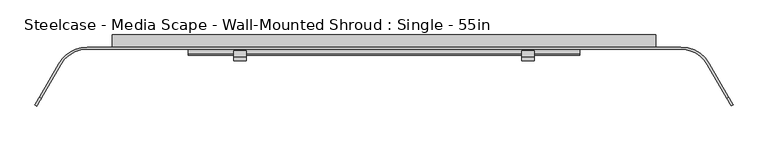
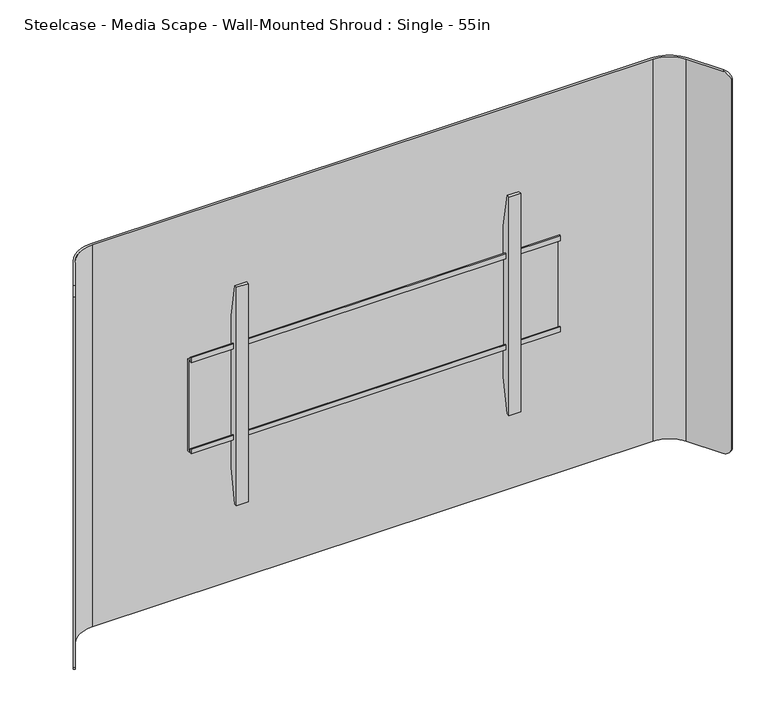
"""IFC4 building model written with IfcOpenShell, lengths in millimetres: furniture geometry, Steelcase - Media Scape - Wall-Mounted Shroud : Single - 55in."""

import ifcopenshell
import ifcopenshell.guid

model = None  # the IFC model being written
_history = None  # IfcOwnerHistory: only IFC2X3 demands one
_inside = {}  # id of a spatial element -> (the spatial element, [elements in it])
_under = {}  # id of a project, library or spatial element -> (it, [spatial elements below it])
_declared = {}  # id of a project -> (the project, [libraries it declares])
_typed = {}  # id of a type object -> (the type object, [elements of that type])
_made_of = {}  # id of a material, layer set ... -> (it, [elements and type objects made of it])


def new_model(schema):
    """Start an empty IFC model of exactly this schema.

    Asked for "IFC4X3", IfcOpenShell would pick the latest addendum, in which some entities
    have other attributes; the version numbers below select the first issue.
    IFC2X3 requires an IfcOwnerHistory on every rooted entity: one is made here for all.
    """
    global model, _history
    if schema == "IFC4X3":
        model = ifcopenshell.file(schema_version=(4, 3, 0, 0))
    else:
        model = ifcopenshell.file(schema=schema)
    _inside.clear()
    _under.clear()
    _declared.clear()
    _typed.clear()
    _made_of.clear()
    _history = None
    if model.schema == "IFC2X3":
        org = make("IfcOrganization", Name="unknown")
        user = make(
            "IfcPersonAndOrganization",
            ThePerson=make("IfcPerson", FamilyName="unknown"),
            TheOrganization=org,
        )
        app = make(
            "IfcApplication",
            ApplicationDeveloper=org,
            Version="unknown",
            ApplicationFullName="unknown",
            ApplicationIdentifier="unknown",
        )
        _history = make(
            "IfcOwnerHistory",
            OwningUser=user,
            OwningApplication=app,
            ChangeAction="ADDED",
            CreationDate=0,
        )
    return model


def make(cls, **values):
    """One entity of the class cls with the attributes given. An attribute that is None is left unset."""
    return model.create_entity(
        cls, **{name: value for name, value in values.items() if value is not None}
    )


def rooted(cls, **values):
    """An entity with a GlobalId (a new one), such as an element, a storey or a relation."""
    return make(cls, GlobalId=ifcopenshell.guid.new(), OwnerHistory=_history, **values)


def si_unit(unit_type, name, prefix=None):
    """IfcSIUnit, for example si_unit("LENGTHUNIT", "METRE", prefix="MILLI")."""
    return make("IfcSIUnit", UnitType=unit_type, Prefix=prefix, Name=name)


def assignment(units):
    """IfcUnitAssignment: the units of a project."""
    return None if units is None else make("IfcUnitAssignment", Units=units)


def point(xyz):
    """IfcCartesianPoint."""
    return None if xyz is None else make("IfcCartesianPoint", Coordinates=xyz)


def direction(xyz):
    """IfcDirection."""
    return None if xyz is None else make("IfcDirection", DirectionRatios=xyz)


def frame(location, z_axis=None, x_axis=None):
    """IfcAxis2Placement3D, a coordinate frame: its origin and axes. An axis left out is left unset."""
    return make(
        "IfcAxis2Placement3D",
        Location=point(location),
        Axis=direction(z_axis),
        RefDirection=direction(x_axis),
    )


def origin():
    """The frame at (0, 0, 0) with its axes left unset."""
    return frame((0.0, 0.0, 0.0))


def place(relative_to, where):
    """IfcLocalPlacement: puts the frame where relative to a parent placement (None: the world)."""
    return make(
        "IfcLocalPlacement", PlacementRelTo=relative_to, RelativePlacement=where
    )


def context(
    kind, dimensions, precision=None, world=None, true_north=None, identifier=None
):
    """IfcGeometricRepresentationContext, for example the 3D "Model" context."""
    return make(
        "IfcGeometricRepresentationContext",
        ContextIdentifier=identifier,
        ContextType=kind,
        CoordinateSpaceDimension=dimensions,
        Precision=precision,
        WorldCoordinateSystem=world,
        TrueNorth=true_north,
    )


def project(units=None, contexts=None):
    """IfcProject with its units and contexts."""
    return rooted(
        "IfcProject",
        Name="project",
        RepresentationContexts=contexts,
        UnitsInContext=assignment(units),
    )


def spatial(cls, under=None, at=None, **own):
    """A site, building, storey or space (cls), placed at a placement, below another one or the project."""
    s = rooted(cls, ObjectPlacement=at, **own)
    if under is not None:
        _under.setdefault(under.id(), (under, []))[1].append(s)
    return s


def polyline(points):
    """IfcPolyline through the points."""
    return make("IfcPolyline", Points=[point(p) for p in points])


def circle_curve(where, radius):
    """IfcCircle in the frame where."""
    return make("IfcCircle", Position=where, Radius=radius)


def outline(outer, holes=None, kind="AREA"):
    """IfcArbitraryClosedProfileDef: a profile drawn as a closed curve; with holes, ...WithVoids."""
    if holes is None:
        return make("IfcArbitraryClosedProfileDef", ProfileType=kind, OuterCurve=outer)
    return make(
        "IfcArbitraryProfileDefWithVoids",
        ProfileType=kind,
        OuterCurve=outer,
        InnerCurves=holes,
    )


def extrude(swept, where, along, depth):
    """IfcExtrudedAreaSolid: the profile swept, set in the frame where, extruded along a direction by depth."""
    return make(
        "IfcExtrudedAreaSolid",
        SweptArea=swept,
        Position=where,
        ExtrudedDirection=direction(along),
        Depth=depth,
    )


def shape(context_of_items, identifier, shape_type, items):
    """IfcShapeRepresentation: the items that make up one representation, for example the "Body"."""
    return make(
        "IfcShapeRepresentation",
        ContextOfItems=context_of_items,
        RepresentationIdentifier=identifier,
        RepresentationType=shape_type,
        Items=items,
    )


def source(mapping_origin, context_of_items, identifier, shape_type, items):
    """IfcRepresentationMap: a shape defined once, which mapped items show again and again."""
    return make(
        "IfcRepresentationMap",
        MappingOrigin=mapping_origin,
        MappedRepresentation=shape(context_of_items, identifier, shape_type, items),
    )


def transform(
    local_origin,
    x_axis=None,
    y_axis=None,
    z_axis=None,
    scale=None,
    scale2=None,
    scale3=None,
    uniform=True,
):
    """IfcCartesianTransformationOperator3D, or its non-uniform kind. x_axis, y_axis, z_axis: its Axis1, 2, 3."""
    if uniform:
        return make(
            "IfcCartesianTransformationOperator3D",
            Axis1=direction(x_axis),
            Axis2=direction(y_axis),
            LocalOrigin=point(local_origin),
            Scale=scale,
            Axis3=direction(z_axis),
        )
    return make(
        "IfcCartesianTransformationOperator3DnonUniform",
        Axis1=direction(x_axis),
        Axis2=direction(y_axis),
        LocalOrigin=point(local_origin),
        Scale=scale,
        Axis3=direction(z_axis),
        Scale2=scale2,
        Scale3=scale3,
    )


def mapped(mapping_source, mapping_target):
    """IfcMappedItem: shows the shape of a source again, moved by a transform."""
    return make(
        "IfcMappedItem", MappingSource=mapping_source, MappingTarget=mapping_target
    )


def made_of(thing, what):
    """Note that an element or type object is made of a material, layer set ...; save() writes the relation."""
    if what is not None:
        _made_of.setdefault(what.id(), (what, []))[1].append(thing)
    return thing


def element(
    cls,
    number,
    at=None,
    inside=None,
    cuts=None,
    type_object=None,
    material=None,
    context=None,
    identifier="Body",
    shape_type=None,
    held_by="IfcProductDefinitionShape",
    body=None,
    shapes=None,
    **own,
):
    """One element of the class cls, such as IfcWall. Its Tag is "e" and its number.

    at: its placement. inside: the storey or other place that contains it. cuts: it is an
    opening in that element (IfcRelVoidsElement). A single representation is given by context,
    identifier, shape_type and body (its items); several are given by shapes. held_by: the class
    of the entity that holds the representations. save() writes the other relations.
    """
    e = rooted(cls, Tag="e%d" % number, ObjectPlacement=at, **own)
    if body is not None:
        shapes = [shape(context, identifier, shape_type, body)]
    if shapes is not None:
        e.Representation = make(held_by, Representations=shapes)
    if inside is not None:
        _inside.setdefault(inside.id(), (inside, []))[1].append(e)
    if cuts is not None:
        rooted(
            "IfcRelVoidsElement", RelatingBuildingElement=cuts, RelatedOpeningElement=e
        )
    if type_object is not None:
        _typed.setdefault(type_object.id(), (type_object, []))[1].append(e)
    return made_of(e, material)


def aggregate(whole, parts):
    """IfcRelAggregates: a whole, such as a stair, and the parts it consists of."""
    return rooted("IfcRelAggregates", RelatingObject=whole, RelatedObjects=parts)


def save(model, path):
    """Write the relations noted so far, then the file.

    IfcRelAggregates (storeys below a building ...), IfcRelContainedInSpatialStructure (elements
    in a storey), IfcRelDefinesByType, IfcRelAssociatesMaterial and IfcRelDeclares: one each for
    every whole, place, type object, material and project.
    """
    for whole, parts in _under.values():
        aggregate(whole, parts)
    for where, things in _inside.values():
        rooted(
            "IfcRelContainedInSpatialStructure",
            RelatedElements=things,
            RelatingStructure=where,
        )
    for kind, things in _typed.values():
        rooted("IfcRelDefinesByType", RelatedObjects=things, RelatingType=kind)
    for what, things in _made_of.values():
        rooted("IfcRelAssociatesMaterial", RelatedObjects=things, RelatingMaterial=what)
    for by, libraries in _declared.values():
        rooted("IfcRelDeclares", RelatingContext=by, RelatedDefinitions=libraries)
    model.write(path)


def plane_surface(at):
    """IfcPlane: the flat surface through the origin of the frame at, square to its z axis."""
    return make("IfcPlane", Position=at)


def cylinder_surface(at, radius):
    """IfcCylindricalSurface: all points at the distance radius from the z axis of the frame at."""
    return make("IfcCylindricalSurface", Position=at, Radius=radius)


def revolved_surface(curve, axis_point, axis_direction):
    """IfcSurfaceOfRevolution: the curve turned about the line through axis_point along axis_direction."""
    return make(
        "IfcSurfaceOfRevolution",
        SweptCurve=make("IfcArbitraryOpenProfileDef", ProfileType="CURVE", Curve=curve),
        AxisPosition=make("IfcAxis1Placement", Location=point(axis_point), Axis=direction(axis_direction)),
    )


def advanced_brep(points, edges, surfaces, faces):
    """IfcAdvancedBrep: a solid bounded by faces that lie on surfaces and meet in shared edges.

    An edge is (start, end): straight between two places in points (the first is 0);
    or (start, end, curve); or (start, end, curve, False) where it runs against its curve.
    A face is (place in surfaces, loops), or (place, loops, False) where it looks against
    its surface's normal. A loop lists edges by number (the first is 1), with a minus sign
    where the edge is run from its end to its start. The first loop is the outer one.
    """
    corners = [point(p) for p in points]
    vertices = [make("IfcVertexPoint", VertexGeometry=c) for c in corners]
    made = []
    for start, end, *more in edges:
        made.append(
            make(
                "IfcEdgeCurve",
                EdgeStart=vertices[start],
                EdgeEnd=vertices[end],
                EdgeGeometry=more[0] if more else make("IfcPolyline", Points=[corners[start], corners[end]]),
                SameSense=more[1] if len(more) > 1 else True,
            )
        )
    hull = []
    for where, loops, *sense in faces:
        bounds = []
        for j, loop in enumerate(loops):
            ring = [make("IfcOrientedEdge", EdgeElement=made[abs(k) - 1], Orientation=k > 0) for k in loop]
            bounds.append(
                make(
                    "IfcFaceOuterBound" if j == 0 else "IfcFaceBound",
                    Bound=make("IfcEdgeLoop", EdgeList=ring),
                    Orientation=True,
                )
            )
        hull.append(make("IfcAdvancedFace", Bounds=bounds, FaceSurface=surfaces[where], SameSense=sense[0] if sense else True))
    return make("IfcAdvancedBrep", Outer=make("IfcClosedShell", CfsFaces=hull))


def steelcase_media_scape_wall_mounted_shroud_single_55in_b1bea1b6(model_context):
    return source(origin(), model_context, "Body", "SolidModel", [
        extrude(outline(polyline([(-42.4942785, 1383.7004726), (-42.4942785, 1395.7145649), (-39.8272175, 1395.7145649), (-39.8272175, 1386.367461), (-29.9720009, 1386.367461), (-29.9720009, 1172.0422438), (-42.3164551, 1172.0422438), (-42.3164551, 1182.9642515), (-39.649394, 1182.9642515), (-39.649394, 1174.707052), (-32.6531824, 1174.707052), (-32.6531824, 1383.7004726), (-42.4942785, 1383.7004726)])), frame((-406.4, 0.0, 0.0), z_axis=(1.0, 0.0, 0.0), x_axis=(0.0, 1.0, 0.0)), (0.0, 0.0, 1.0), 812.8),
        extrude(outline(polyline([(-32.6531824, 1454.6471148), (-32.6531824, 1102.8325607), (-46.5049349, 1025.2046949), (-53.3399828, 1025.2046949), (-53.3399828, 1533.2047192), (-46.5050076, 1533.2047192), (-32.6531824, 1454.6471148)])), frame((286.6392868, 0.0, 0.0), z_axis=(1.0, 0.0, 0.0), x_axis=(0.0, 1.0, 0.0)), (0.0, 0.0, 1.0), 26.1592872),
        extrude(outline(polyline([(-32.6531824, 1454.6471148), (-32.6531824, 1102.8325607), (-46.5049349, 1025.2046949), (-53.3399828, 1025.2046949), (-53.3399828, 1533.2047192), (-46.5050076, 1533.2047192), (-32.6531824, 1454.6471148)])), frame((-312.798574, 0.0, 0.0), z_axis=(1.0, 0.0, 0.0), x_axis=(0.0, 1.0, 0.0)), (0.0, 0.0, 1.0), 26.1592872),
        advanced_brep(
        [(-671.9586135, -61.722, 1724.914), (-616.966002, -29.9720009, 1724.914), (616.966, -29.9720009, 1724.914), (671.9586135, -61.722, 1724.914), (712.079586, -131.2135628, 1724.914), (716.0390541, -128.9275628, 1724.914), (675.9180817, -59.436, 1724.914), (616.966002, -25.4, 1724.914), (-616.966, -25.4, 1724.914), (-675.9180817, -59.436, 1724.914), (-716.0421659, -128.9329524, 1724.914), (-712.0826977, -131.2189524, 1724.914), (-675.9180817, -59.436, 835.914), (-616.966002, -25.4, 835.914), (616.966, -25.4, 835.914), (675.9180817, -59.436, 835.914), (716.0906629, -129.0169518, 835.914), (712.1311948, -131.3029518, 835.914), (671.9586135, -61.722, 835.914), (616.966002, -29.9720009, 835.914), (-616.966, -29.9720009, 835.914), (-671.9586135, -61.722, 835.914), (-712.1454014, -131.3275584, 835.914), (-716.1048695, -129.0415584, 835.914), (-725.6090632, -145.5033047, 849.5242766), (-725.6090632, -145.5033047, 1710.9227735), (-721.6495951, -147.7893047, 1710.9227735), (-721.6495951, -147.7893047, 849.5242766), (721.6270866, -147.7503189, 849.4756893), (721.6270866, -147.7503189, 1711.0433849), (725.5865547, -145.4643189, 1711.0433849), (725.5865547, -145.4643189, 849.4756893)],
        [
            (0, 1, circle_curve(frame((-616.966002, -93.4719991, 1724.914), z_axis=(0.0, 0.0, -1.0), x_axis=(0.0, 1.0, 0.0)), 63.4999981)),
            (1, 2),
            (2, 3, circle_curve(frame((616.966002, -93.4719991, 1724.914), z_axis=(0.0, 0.0, -1.0), x_axis=(0.0, 1.0, 0.0)), 63.4999981)),
            (3, 4),
            (4, 5),
            (5, 6),
            (6, 7, circle_curve(frame((616.9660004, -93.472, 1724.914), z_axis=(0.0, 0.0, 1.0), x_axis=(0.0, 1.0, 0.0)), 68.072)),
            (7, 8),
            (8, 9, circle_curve(frame((-616.9660004, -93.472, 1724.914), z_axis=(0.0, 0.0, 1.0), x_axis=(0.0, 1.0, 0.0)), 68.072)),
            (9, 10),
            (10, 11),
            (11, 0),
            (12, 13, circle_curve(frame((-616.9660004, -93.472, 835.914), z_axis=(0.0, 0.0, -1.0), x_axis=(0.0, 1.0, 0.0)), 68.072)),
            (13, 14),
            (14, 15, circle_curve(frame((616.9660004, -93.472, 835.914), z_axis=(0.0, 0.0, -1.0), x_axis=(0.0, 1.0, 0.0)), 68.072)),
            (15, 16),
            (16, 17),
            (17, 18),
            (18, 19, circle_curve(frame((616.966002, -93.4719991, 835.914), z_axis=(0.0, 0.0, 1.0), x_axis=(0.0, 1.0, 0.0)), 63.4999981)),
            (19, 20),
            (20, 21, circle_curve(frame((-616.966002, -93.4719991, 835.914), z_axis=(0.0, 0.0, 1.0), x_axis=(0.0, 1.0, 0.0)), 63.4999981)),
            (21, 22),
            (22, 23),
            (23, 12),
            (0, 21),
            (20, 1),
            (8, 13),
            (12, 9),
            (23, 24, circle_curve(frame((-716.1048695, -129.0415584, 855.9928872), z_axis=(-0.8660254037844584, 0.49999999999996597, 0.0), x_axis=(-0.49999999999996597, -0.8660254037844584, 0.0)), 20.0788872)),
            (24, 25),
            (25, 10, circle_curve(frame((-716.0421659, -128.9329524, 1704.8351128), z_axis=(-0.8660254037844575, 0.4999999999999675, 0.0), x_axis=(-0.4999999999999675, -0.8660254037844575, 0.0)), 20.0788872)),
            (26, 25),
            (24, 27),
            (27, 26),
            (11, 26, circle_curve(frame((-712.0826977, -131.2189524, 1704.8351128), z_axis=(0.8660254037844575, -0.4999999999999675, 0.0), x_axis=(-0.4999999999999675, -0.8660254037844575, 0.0)), 20.0788872)),
            (27, 22, circle_curve(frame((-712.1454014, -131.3275584, 855.9928872), z_axis=(0.8660254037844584, -0.49999999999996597, 0.0), x_axis=(-0.49999999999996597, -0.8660254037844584, 0.0)), 20.0788872)),
            (7, 14),
            (19, 2),
            (3, 18),
            (17, 28, circle_curve(frame((712.1311948, -131.3029518, 855.9928872), z_axis=(-0.8660254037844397, -0.49999999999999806, 0.0), x_axis=(0.49999999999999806, -0.8660254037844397, 0.0)), 20.0788872)),
            (28, 29),
            (29, 4, circle_curve(frame((712.079586, -131.2135628, 1704.8351128), z_axis=(-0.8660254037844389, -0.49999999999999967, 0.0), x_axis=(0.49999999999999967, -0.8660254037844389, 0.0)), 20.0788872)),
            (30, 29),
            (28, 31),
            (31, 30),
            (15, 6),
            (5, 30, circle_curve(frame((716.0390541, -128.9275628, 1704.8351128), z_axis=(0.8660254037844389, 0.49999999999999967, 0.0), x_axis=(0.49999999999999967, -0.8660254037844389, 0.0)), 20.0788872)),
            (31, 16, circle_curve(frame((716.0906629, -129.0169518, 855.9928872), z_axis=(0.8660254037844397, 0.49999999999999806, 0.0), x_axis=(0.49999999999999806, -0.8660254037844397, 0.0)), 20.0788872)),
        ],
        [
            plane_surface(frame((-616.966002, -29.9720009, 1724.914), z_axis=(0.0, 0.0, 1.0), x_axis=(1.0, 0.0, 0.0))),
            plane_surface(frame((-616.966002, -29.9720009, 835.914), z_axis=(0.0, 0.0, -1.0), x_axis=(-1.0, 0.0, 0.0))),
            revolved_surface(polyline([(-616.966002, -29.972001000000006, 835.914), (-616.966002, -29.972001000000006, 1724.914)]), (-616.966002, -93.4719991, 835.914), (0.0, 0.0, -1.0)),
            cylinder_surface(frame((-616.9660004, -93.472, 835.914), z_axis=(0.0, 0.0, 1.0), x_axis=(0.0, 1.0, 0.0)), 68.072),
            plane_surface(frame((-675.9180817, -59.436, 1724.914), z_axis=(-0.8660254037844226, 0.5000000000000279, 0.0), x_axis=(0.0, 0.0, -1.0))),
            plane_surface(frame((-725.6090632, -145.5033047, 1724.914), z_axis=(-0.5000000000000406, -0.8660254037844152, 0.0), x_axis=(0.0, 0.0, -1.0))),
            plane_surface(frame((-721.6495951, -147.7893047, 1724.914), z_axis=(0.8660254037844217, -0.5000000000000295, 0.0), x_axis=(0.0, 0.0, -1.0))),
            plane_surface(frame((616.966, -25.4, 1724.914), z_axis=(0.0, 1.0, 0.0), x_axis=(0.0, 0.0, -1.0))),
            plane_surface(frame((-616.966, -29.9720009, 1724.914), z_axis=(0.0, -1.0, 0.0), x_axis=(0.0, 0.0, -1.0))),
            plane_surface(frame((671.9586135, -61.722, 1724.914), z_axis=(-0.8660254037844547, -0.4999999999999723, 0.0), x_axis=(0.0, 0.0, -1.0))),
            plane_surface(frame((721.6270866, -147.7503189, 1724.914), z_axis=(0.4999999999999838, -0.866025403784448, 0.0), x_axis=(0.0, 0.0, -1.0))),
            plane_surface(frame((725.5865547, -145.4643189, 1724.914), z_axis=(0.8660254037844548, 0.49999999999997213, 0.0), x_axis=(0.0, 0.0, -1.0))),
            cylinder_surface(frame((616.9660004, -93.472, 835.914), z_axis=(0.0, 0.0, 1.0), x_axis=(0.0, 1.0, 0.0)), 68.072),
            revolved_surface(polyline([(616.966002, -29.972001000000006, 835.914), (616.966002, -29.972001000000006, 1724.914)]), (616.966002, -93.4719991, 835.914), (0.0, 0.0, -1.0)),
            cylinder_surface(frame((-712.0826977, -131.2189524, 1704.8351128), z_axis=(0.8660254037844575, -0.4999999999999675, 0.0), x_axis=(-0.4999999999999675, -0.8660254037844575, 0.0)), 20.0788872),
            cylinder_surface(frame((-712.1454014, -131.3275584, 855.9928872), z_axis=(0.8660254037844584, -0.49999999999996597, 0.0), x_axis=(-0.49999999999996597, -0.8660254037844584, 0.0)), 20.0788872),
            cylinder_surface(frame((727.1864297, -122.4916225, 1704.8351128), z_axis=(0.8660254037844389, 0.49999999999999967, 0.0), x_axis=(0.49999999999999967, -0.8660254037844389, 0.0)), 20.0788872),
            cylinder_surface(frame((724.3789695, -124.2316958, 855.9928872), z_axis=(0.8660254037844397, 0.49999999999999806, 0.0), x_axis=(0.49999999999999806, -0.8660254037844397, 0.0)), 20.0788872),
        ],
        [
            (0, [[1, 2, 3, 4, 5, 6, 7, 8, 9, 10, 11, 12]]),
            (1, [[13, 14, 15, 16, 17, 18, 19, 20, 21, 22, 23, 24]]),
            (2, [[-1, 25, -21, 26]]),
            (3, [[-9, 27, -13, 28]]),
            (4, [[-28, -24, 29, 30, 31, -10]]),
            (5, [[32, -30, 33, 34]]),
            (6, [[-25, -12, 35, -34, 36, -22]]),
            (7, [[-8, 37, -14, -27]]),
            (8, [[-2, -26, -20, 38]]),
            (9, [[39, -18, 40, 41, 42, -4]]),
            (10, [[43, -41, 44, 45]]),
            (11, [[46, -6, 47, -45, 48, -16]]),
            (12, [[-7, -46, -15, -37]]),
            (13, [[-3, -38, -19, -39]]),
            (14, [[-11, -31, -32, -35]]),
            (15, [[-23, -36, -33, -29]]),
            (16, [[-5, -42, -43, -47]]),
            (17, [[-17, -48, -44, -40]]),
        ],
    ),
        extrude(outline(polyline([(912.1648167, 501.6499879), (912.1648167, 565.15), (1648.714, 565.15), (1648.714, -565.15), (912.1648167, -565.15), (912.1648167, -502.6433465), (1585.2139516, -502.6433465), (1585.2139516, 501.6499879), (912.1648167, 501.6499879)])), frame((0.0, -25.4, 0.0), z_axis=(0.0, 1.0, 0.0), x_axis=(0.0, 0.0, 1.0)), (0.0, 0.0, 1.0), 25.4),
    ])


if __name__ == "__main__":
    model = new_model("IFC4")
    model_context = context("Model", 3, world=origin())
    ifc_project = project(units=[si_unit("LENGTHUNIT", "METRE", prefix="MILLI")], contexts=[model_context])
    site = spatial("IfcSite", under=ifc_project)
    building = spatial("IfcBuilding", under=site)
    placement = place(None, origin())
    steelcase_media_scape_wall_mounted_shroud_single_55in_shape = steelcase_media_scape_wall_mounted_shroud_single_55in_b1bea1b6(model_context)
    element("IfcFurniture", 1, ObjectType="Steelcase - Media Scape - Wall-Mounted Shroud : Single - 55in", at=placement, inside=building, context=model_context, shape_type="MappedRepresentation", body=[
        mapped(steelcase_media_scape_wall_mounted_shroud_single_55in_shape, transform((0.0, 0.0, 0.0), x_axis=(1.0, 0.0, 0.0), y_axis=(0.0, 1.0, 0.0), z_axis=(0.0, 0.0, 1.0))),
    ])
    save(model, "model.ifc")
